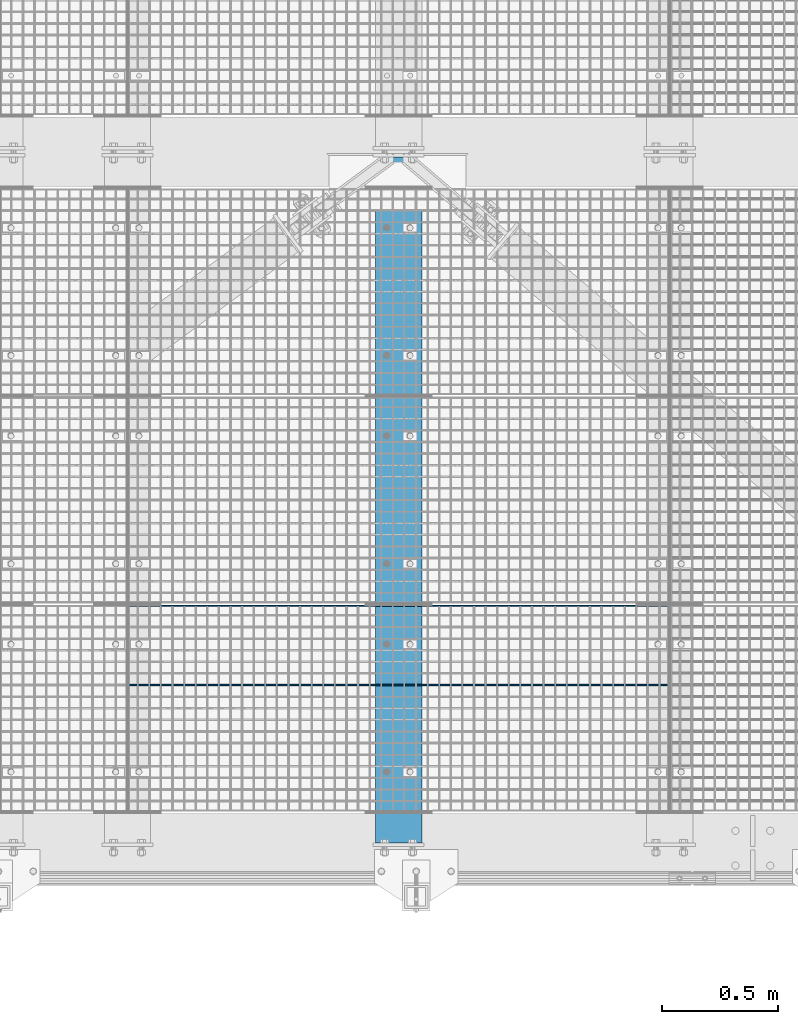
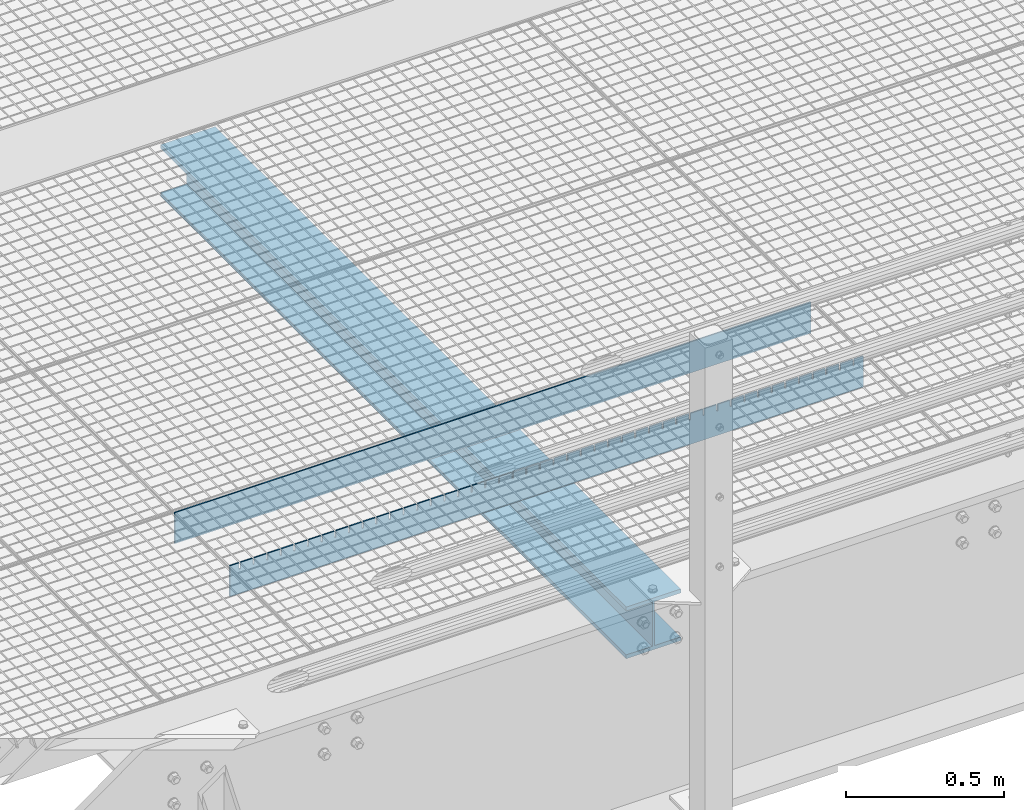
# One storey, part 199 of 1530: 3 beams.
"""IFC2X3 building model written with IfcOpenShell, lengths in millimetres."""

from ifc_helpers import new_model, si_unit, frame, origin_with_axes, place, context, subcontext, project, spatial, faceted_brep, material, type_object, element, save


model = new_model("IFC2X3")

# Units and contexts
model_context = context("Model", 3, precision=1e-05, world=origin_with_axes())
body_context = subcontext(model_context, "Body", "Model", "MODEL_VIEW")
ifc_project = project(units=[si_unit("LENGTHUNIT", "METRE", prefix="MILLI"), si_unit("AREAUNIT", "SQUARE_METRE"), si_unit("VOLUMEUNIT", "CUBIC_METRE"), si_unit("MASSUNIT", "GRAM", prefix="KILO"), si_unit("TIMEUNIT", "SECOND"), si_unit("PLANEANGLEUNIT", "RADIAN"), si_unit("SOLIDANGLEUNIT", "STERADIAN"), si_unit("THERMODYNAMICTEMPERATUREUNIT", "DEGREE_CELSIUS"), si_unit("LUMINOUSINTENSITYUNIT", "LUMEN")], contexts=[model_context])

# Site, building, storey
site_placement = place(None, origin_with_axes())
site = spatial("IfcSite", under=ifc_project, at=site_placement, Name="Brattvåg", CompositionType="ELEMENT")
building_placement = place(site_placement, origin_with_axes())
building = spatial("IfcBuilding", under=site, at=building_placement, Name="Undefined", CompositionType="ELEMENT")
storey_placement = place(building_placement, origin_with_axes())
storey = spatial("IfcBuildingStorey", under=building, at=storey_placement, Name="Undefined", CompositionType="ELEMENT", Elevation=0.0)

# Beams
ifc_material_1 = material(Name="STEEL/S355J2")
beam_type_1 = type_object("IfcBeamType", Name="120*5", PredefinedType="NOTDEFINED")
beam_1_placement = place(storey_placement, frame((5234.01317977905, 702.994873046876, -59.9998626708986), z_axis=(0.0, 0.0, 1.0), x_axis=(-1.0, 1.99999855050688e-09, 0.0)))
element("IfcBeam", 1, at=beam_1_placement, inside=storey, type_object=beam_type_1, material=ifc_material_1, Name="GRATING", context=body_context, shape_type="Brep", body=[
    faceted_brep([(2231.43418685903, -2.50000000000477, 60.000072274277), (2231.43418685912, -2.50000000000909, 35.0001373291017), (2231.43418685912, 2.50022888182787, 35.0001373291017), (2231.43418685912, 2.5, 60.0), (2236.43418685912, -2.50000000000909, 35.0001373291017), (2236.43418685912, 2.50022888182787, 35.0001373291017), (2236.43418685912, -2.50000000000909, 60.0001373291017), (2236.43418685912, 2.5, 60.0), (2186.48418685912, -2.50000000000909, 60.0001373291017), (2186.48418685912, 2.5, 60.0), (2186.48418685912, 2.50022888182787, 35.0001373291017), (2186.48418685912, -2.50000000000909, 35.0001373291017), (2181.48418685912, 2.50022888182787, 35.0001373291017), (2181.48418685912, -2.50000000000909, 35.0001373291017), (2181.48418685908, -2.50000000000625, 60.0000947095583), (2181.48418685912, 2.5, 60.0), (2136.53418685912, 2.5, 60.0), (2136.53418685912, -2.50000000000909, 60.0001373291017), (2136.53418685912, 2.50022888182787, 35.0001373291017), (2136.53418685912, -2.50000000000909, 35.0001373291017), (2131.53418685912, 2.50022888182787, 35.0001373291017), (2131.53418685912, -2.50000000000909, 35.0001373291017), (2131.5341868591, -2.50000000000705, 60.0001056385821), (2131.53418685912, 2.5, 60.0), (2086.58418685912, 2.5, 60.0), (2086.58418685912, -2.50000000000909, 60.0001373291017), (2086.58418685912, 2.50022888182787, 35.0001373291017), (2086.58418685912, -2.50000000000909, 35.0001373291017), (2081.58418685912, 2.50022888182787, 35.0001373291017), (2081.58418685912, -2.50000000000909, 35.0001373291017), (2081.58418685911, -2.50000000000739, 60.0001121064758), (2081.58418685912, 2.5, 60.0), (2036.63418685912, 2.5, 60.0), (2036.63418685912, -2.50000000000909, 60.0001373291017), (2036.63418685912, 2.50022888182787, 35.0001373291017), (2036.63418685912, -2.50000000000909, 35.0001373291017), (2031.63418685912, 2.50022888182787, 35.0001373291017), (2031.63418685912, -2.50000000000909, 35.0001373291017), (2031.63418685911, -2.50000000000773, 60.0001163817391), (2031.63418685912, 2.5, 60.0), (1986.68418685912, 2.5, 60.0), (1986.68418685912, -2.50000000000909, 60.0001373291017), (1986.68418685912, 2.50022888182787, 35.0001373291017), (1986.68418685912, -2.50000000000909, 35.0001373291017), (1981.68418685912, 2.50022888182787, 35.0001373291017), (1981.68418685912, -2.50000000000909, 35.0001373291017), (1981.68418685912, -2.50000000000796, 60.0001194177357), (1981.68418685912, 2.5, 60.0), (1936.73418685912, 2.5, 60.0), (1936.73418685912, -2.50000000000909, 60.0001373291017), (1936.73418685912, 2.50022888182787, 35.0001373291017), (1936.73418685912, -2.50000000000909, 35.0001373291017), (1931.73418685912, 2.50022888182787, 35.0001373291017), (1931.73418685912, -2.50000000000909, 35.0001373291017), (1931.73418685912, -2.50000000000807, 60.000121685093), (1931.73418685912, 2.5, 60.0), (1886.78418685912, 2.5, 60.0), (1886.78418685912, -2.50000000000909, 60.0001373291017), (1886.78418685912, 2.50022888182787, 35.0001373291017), (1886.78418685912, -2.50000000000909, 35.0001373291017), (1881.78418685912, 2.50022888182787, 35.0001373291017), (1881.78418685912, -2.50000000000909, 35.0001373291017), (1881.78418685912, -2.50000000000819, 60.0001234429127), (1881.78418685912, 2.5, 60.0), (1836.83418685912, 2.5, 60.0), (1836.83418685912, -2.50000000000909, 60.0001373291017), (1836.83418685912, 2.50022888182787, 35.0001373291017), (1836.83418685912, -2.50000000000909, 35.0001373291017), (1831.83418685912, 2.50022888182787, 35.0001373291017), (1831.83418685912, -2.50000000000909, 35.0001373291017), (1831.83418685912, -2.5000000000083, 60.0001248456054), (1831.83418685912, 2.5, 60.0), (1786.88418685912, 2.5, 60.0), (1786.88418685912, -2.50000000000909, 60.0001373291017), (1786.88418685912, 2.50022888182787, 35.0001373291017), (1786.88418685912, -2.50000000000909, 35.0001373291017), (1781.88418685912, 2.50022888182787, 35.0001373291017), (1781.88418685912, -2.50000000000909, 35.0001373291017), (1781.88418685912, -2.5000000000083, 60.0001259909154), (1781.88418685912, 2.5, 60.0), (1736.93418685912, 2.5, 60.0), (1736.93418685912, -2.50000000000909, 60.0001373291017), (1736.93418685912, 2.50022888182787, 35.0001373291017), (1736.93418685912, -2.50000000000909, 35.0001373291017), (1731.93418685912, 2.50022888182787, 35.0001373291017), (1731.93418685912, -2.50000000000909, 35.0001373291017), (1731.93418685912, -2.50000000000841, 60.0001269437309), (1731.93418685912, 2.5, 60.0), (1686.98418685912, 2.5, 60.0), (1686.98418685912, -2.50000000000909, 60.0001373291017), (1686.98418685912, 2.50022888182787, 35.0001373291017), (1686.98418685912, -2.50000000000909, 35.0001373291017), (1681.98418685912, 2.50022888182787, 35.0001373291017), (1681.98418685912, -2.50000000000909, 35.0001373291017), (1681.98418685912, -2.50000000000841, 60.0001277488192), (1681.98418685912, 2.5, 60.0), (1637.03418685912, 2.5, 60.0), (1637.03418685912, -2.50000000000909, 60.0001373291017), (1637.03418685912, 2.50022888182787, 35.0001373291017), (1637.03418685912, -2.50000000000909, 35.0001373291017), (1632.03418685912, 2.50022888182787, 35.0001373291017), (1632.03418685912, -2.50000000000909, 35.0001373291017), (1632.03418685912, -2.50000000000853, 60.0001284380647), (1632.03418685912, 2.5, 60.0), (1587.08418685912, 2.5, 60.0), (1587.08418685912, -2.50000000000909, 60.0001373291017), (1587.08418685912, 2.50022888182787, 35.0001373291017), (1587.08418685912, -2.50000000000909, 35.0001373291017), (1582.08418685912, 2.50022888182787, 35.0001373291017), (1582.08418685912, -2.50000000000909, 35.0001373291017), (1582.08418685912, -2.50000000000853, 60.000129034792), (1582.08418685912, 2.5, 60.0), (1537.13418685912, 2.5, 60.0), (1537.13418685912, -2.50000000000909, 60.0001373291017), (1537.13418685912, 2.50022888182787, 35.0001373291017), (1537.13418685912, -2.50000000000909, 35.0001373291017), (1532.13418685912, 2.50022888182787, 35.0001373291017), (1532.13418685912, -2.50000000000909, 35.0001373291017), (1532.13418685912, -2.50000000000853, 60.0001295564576), (1532.13418685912, 2.5, 60.0), (1487.18418685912, 2.5, 60.0), (1487.18418685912, -2.50000000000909, 60.0001373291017), (1487.18418685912, 2.50022888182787, 35.0001373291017), (1487.18418685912, -2.50000000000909, 35.0001373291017), (1482.18418685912, 2.50022888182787, 35.0001373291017), (1482.18418685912, -2.50000000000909, 35.0001373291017), (1482.18418685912, -2.50000000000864, 60.0001300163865), (1482.18418685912, 2.5, 60.0), (1437.23418685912, 2.5, 60.0), (1437.23418685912, -2.50000000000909, 60.0001373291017), (1437.23418685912, 2.50022888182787, 35.0001373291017), (1437.23418685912, -2.50000000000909, 35.0001373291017), (1432.23418685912, 2.50022888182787, 35.0001373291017), (1432.23418685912, -2.50000000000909, 35.0001373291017), (1432.23418685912, -2.50000000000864, 60.0001304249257), (1432.23418685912, 2.5, 60.0), (1387.28418685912, 2.5, 60.0), (1387.28418685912, -2.50000000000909, 60.0001373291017), (1387.28418685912, 2.50022888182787, 35.0001373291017), (1387.28418685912, -2.50000000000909, 35.0001373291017), (1382.28418685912, 2.50022888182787, 35.0001373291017), (1382.28418685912, -2.50000000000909, 35.0001373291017), (1382.28418685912, -2.50000000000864, 60.0001307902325), (1382.28418685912, 2.5, 60.0), (1337.33418685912, 2.5, 60.0), (1337.33418685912, -2.50000000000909, 60.0001373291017), (1337.33418685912, 2.50022888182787, 35.0001373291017), (1337.33418685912, -2.50000000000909, 35.0001373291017), (1332.33418685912, 2.50022888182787, 35.0001373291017), (1332.33418685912, -2.50000000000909, 35.0001373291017), (1332.33418685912, -2.50000000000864, 60.0001311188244), (1332.33418685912, 2.5, 60.0), (1287.38418685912, 2.5, 60.0), (1287.38418685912, -2.50000000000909, 60.0001373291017), (1287.38418685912, 2.50022888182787, 35.0001373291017), (1287.38418685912, -2.50000000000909, 35.0001373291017), (1282.38418685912, 2.50022888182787, 35.0001373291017), (1282.38418685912, -2.50000000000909, 35.0001373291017), (1282.38418685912, -2.50000000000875, 60.0001314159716), (1282.38418685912, 2.5, 60.0), (1237.43418685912, 2.5, 60.0), (1237.43418685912, -2.50000000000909, 60.0001373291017), (1237.43418685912, 2.50022888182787, 35.0001373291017), (1237.43418685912, -2.50000000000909, 35.0001373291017), (1232.43418685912, 2.50022888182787, 35.0001373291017), (1232.43418685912, -2.50000000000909, 35.0001373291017), (1232.43418685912, -2.50000000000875, 60.0001316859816), (1232.43418685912, 2.5, 60.0), (1187.48418685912, 2.5, 60.0), (1187.48418685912, -2.50000000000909, 60.0001373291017), (1187.48418685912, 2.50022888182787, 35.0001373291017), (1187.48418685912, -2.50000000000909, 35.0001373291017), (1182.48418685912, 2.50022888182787, 35.0001373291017), (1182.48418685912, -2.50000000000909, 35.0001373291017), (1182.48418685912, -2.50000000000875, 60.0001319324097), (1182.48418685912, 2.5, 60.0), (1137.53418685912, 2.5, 60.0), (1137.53418685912, -2.50000000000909, 60.0001373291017), (1137.53418685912, 2.50022888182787, 35.0001373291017), (1137.53418685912, -2.50000000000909, 35.0001373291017), (1132.53418685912, 2.50022888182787, 35.0001373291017), (1132.53418685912, -2.50000000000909, 35.0001373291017), (1132.53418685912, -2.50000000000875, 60.0001321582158), (1132.53418685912, 2.5, 60.0), (1087.58418685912, 2.5, 60.0), (1087.58418685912, -2.50000000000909, 60.0001373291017), (1087.58418685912, 2.50022888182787, 35.0001373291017), (1087.58418685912, -2.50000000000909, 35.0001373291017), (1082.58418685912, 2.50022888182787, 35.0001373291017), (1082.58418685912, -2.50000000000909, 35.0001373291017), (1082.58418685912, -2.50000000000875, 60.0001323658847), (1082.58418685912, 2.5, 60.0), (1037.63418685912, 2.5, 60.0), (1037.63418685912, -2.50000000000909, 60.0001373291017), (1037.63418685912, 2.50022888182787, 35.0001373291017), (1037.63418685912, -2.50000000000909, 35.0001373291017), (1032.63418685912, 2.50022888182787, 35.0001373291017), (1032.63418685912, -2.50000000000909, 35.0001373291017), (1032.63418685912, -2.50000000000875, 60.0001325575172), (1032.63418685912, 2.5, 60.0), (987.684186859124, 2.5, 60.0), (987.684186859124, -2.50000000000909, 60.0001373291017), (987.684186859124, 2.50022888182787, 35.0001373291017), (987.684186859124, -2.50000000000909, 35.0001373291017), (982.684186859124, 2.50022888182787, 35.0001373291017), (982.684186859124, -2.50000000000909, 35.0001373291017), (982.684186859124, -2.50000000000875, 60.0001327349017), (982.684186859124, 2.5, 60.0), (937.734186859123, 2.5, 60.0), (937.734186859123, -2.50000000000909, 60.0001373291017), (937.734186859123, 2.50022888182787, 35.0001373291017), (937.734186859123, -2.50000000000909, 35.0001373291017), (932.734186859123, 2.50022888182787, 35.0001373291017), (932.734186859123, -2.50000000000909, 35.0001373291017), (932.734186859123, -2.50000000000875, 60.0001328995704), (932.734186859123, 2.5, 60.0), (887.784186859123, 2.5, 60.0), (887.784186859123, -2.50000000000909, 60.0001373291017), (887.784186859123, 2.50022888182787, 35.0001373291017), (887.784186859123, -2.50000000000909, 35.0001373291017), (882.784186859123, 2.50022888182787, 35.0001373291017), (882.784186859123, -2.50000000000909, 35.0001373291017), (882.784186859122, -2.50000000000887, 60.0001330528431), (882.784186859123, 2.5, 60.0), (837.834186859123, 2.5, 60.0), (837.834186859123, -2.50000000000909, 60.0001373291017), (837.834186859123, 2.50022888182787, 35.0001373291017), (837.834186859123, -2.50000000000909, 35.0001373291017), (832.834186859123, 2.50022888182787, 35.0001373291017), (832.834186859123, -2.50000000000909, 35.0001373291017), (832.834186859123, -2.50000000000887, 60.0001331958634), (832.834186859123, 2.5, 60.0), (787.884186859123, 2.5, 60.0), (787.884186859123, -2.50000000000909, 60.0001373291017), (787.884186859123, 2.50022888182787, 35.0001373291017), (787.884186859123, -2.50000000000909, 35.0001373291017), (782.884186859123, 2.50022888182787, 35.0001373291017), (782.884186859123, -2.50000000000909, 35.0001373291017), (782.884186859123, -2.50000000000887, 60.0001333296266), (782.884186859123, 2.5, 60.0), (737.934186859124, 2.5, 60.0), (737.934186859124, -2.50000000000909, 60.0001373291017), (737.934186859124, 2.50022888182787, 35.0001373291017), (737.934186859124, -2.50000000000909, 35.0001373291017), (732.934186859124, 2.50022888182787, 35.0001373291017), (732.934186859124, -2.50000000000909, 35.0001373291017), (732.934186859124, -2.50000000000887, 60.0001334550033), (732.934186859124, 2.5, 60.0), (687.984186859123, 2.5, 60.0), (687.984186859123, -2.50000000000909, 60.0001373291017), (687.984186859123, 2.50022888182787, 35.0001373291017), (687.984186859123, -2.50000000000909, 35.0001373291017), (682.984186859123, 2.50022888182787, 35.0001373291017), (682.984186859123, -2.50000000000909, 35.0001373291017), (682.984186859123, -2.50000000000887, 60.0001335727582), (682.984186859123, 2.5, 60.0), (638.034186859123, 2.5, 60.0), (638.034186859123, -2.50000000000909, 60.0001373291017), (638.034186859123, 2.50022888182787, 35.0001373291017), (638.034186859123, -2.50000000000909, 35.0001373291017), (633.034186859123, 2.50022888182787, 35.0001373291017), (633.034186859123, -2.50000000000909, 35.0001373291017), (633.034186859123, -2.50000000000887, 60.0001336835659), (633.034186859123, 2.5, 60.0), (588.084186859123, 2.5, 60.0), (588.084186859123, -2.50000000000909, 60.0001373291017), (588.084186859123, 2.50022888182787, 35.0001373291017), (588.084186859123, -2.50000000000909, 35.0001373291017), (583.084186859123, 2.50022888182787, 35.0001373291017), (583.084186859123, -2.50000000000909, 35.0001373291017), (583.084186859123, -2.50000000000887, 60.0001337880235), (583.084186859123, 2.5, 60.0), (538.134186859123, 2.5, 60.0), (538.134186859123, -2.50000000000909, 60.0001373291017), (538.134186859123, 2.50022888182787, 35.0001373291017), (538.134186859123, -2.50000000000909, 35.0001373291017), (533.134186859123, 2.50022888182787, 35.0001373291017), (533.134186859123, -2.50000000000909, 35.0001373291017), (533.134186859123, -2.50000000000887, 60.0001338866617), (533.134186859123, 2.5, 60.0), (488.184186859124, 2.5, 60.0), (488.184186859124, -2.50000000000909, 60.0001373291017), (488.184186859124, 2.50022888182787, 35.0001373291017), (488.184186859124, -2.50000000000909, 35.0001373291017), (483.184186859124, 2.50022888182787, 35.0001373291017), (483.184186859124, -2.50000000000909, 35.0001373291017), (483.184186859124, -2.50000000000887, 60.0001339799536), (483.184186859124, 2.5, 60.0), (438.234186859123, 2.5, 60.0), (438.234186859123, -2.50000000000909, 60.0001373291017), (438.234186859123, 2.50022888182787, 35.0001373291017), (438.234186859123, -2.50000000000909, 35.0001373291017), (433.234186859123, 2.50022888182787, 35.0001373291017), (433.234186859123, -2.50000000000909, 35.0001373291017), (433.234186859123, -2.50000000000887, 60.0001340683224), (433.234186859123, 2.5, 60.0), (388.284186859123, 2.5, 60.0), (388.284186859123, -2.50000000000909, 60.0001373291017), (388.284186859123, 2.50022888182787, 35.0001373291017), (388.284186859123, -2.50000000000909, 35.0001373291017), (383.284186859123, 2.50022888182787, 35.0001373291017), (383.284186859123, -2.50000000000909, 35.0001373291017), (383.284186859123, -2.50000000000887, 60.0001341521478), (383.284186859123, 2.5, 60.0), (338.334186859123, 2.5, 60.0), (338.334186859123, -2.50000000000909, 60.0001373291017), (338.334186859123, 2.50022888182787, 35.0001373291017), (338.334186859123, -2.50000000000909, 35.0001373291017), (333.334186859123, 2.50022888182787, 35.0001373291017), (333.334186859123, -2.50000000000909, 35.0001373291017), (333.334186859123, -2.50000000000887, 60.0001342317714), (333.334186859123, 2.5, 60.0), (288.384186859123, 2.5, 60.0), (288.384186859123, -2.50000000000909, 60.0001373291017), (288.384186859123, 2.50022888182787, 35.0001373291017), (288.384186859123, -2.50000000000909, 35.0001373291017), (283.384186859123, 2.50022888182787, 35.0001373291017), (283.384186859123, -2.50000000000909, 35.0001373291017), (283.384186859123, -2.50000000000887, 60.0001343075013), (283.384186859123, 2.5, 60.0), (238.434186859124, 2.5, 60.0), (238.434186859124, -2.50000000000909, 60.0001373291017), (238.434186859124, 2.50022888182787, 35.0001373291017), (238.434186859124, -2.50000000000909, 35.0001373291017), (233.434186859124, 2.50022888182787, 35.0001373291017), (233.434186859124, -2.50000000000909, 35.0001373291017), (233.434186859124, -2.50000000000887, 60.0001343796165), (233.434186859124, 2.5, 60.0), (188.484186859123, 2.5, 60.0), (188.484186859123, -2.50000000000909, 60.0001373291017), (188.484186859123, 2.50022888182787, 35.0001373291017), (188.484186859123, -2.50000000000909, 35.0001373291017), (183.484186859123, 2.50022888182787, 35.0001373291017), (183.484186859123, -2.50000000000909, 35.0001373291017), (183.484186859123, -2.50000000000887, 60.0001344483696), (183.484186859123, 2.5, 60.0), (138.534186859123, 2.5, 60.0), (138.534186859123, -2.50000000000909, 60.0001373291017), (138.534186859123, 2.50022888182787, 35.0001373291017), (138.534186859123, -2.50000000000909, 35.0001373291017), (133.534186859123, 2.50022888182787, 35.0001373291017), (133.534186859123, -2.50000000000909, 35.0001373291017), (133.534186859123, -2.50000000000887, 60.0001345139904), (133.534186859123, 2.5, 60.0), (88.5841868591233, 2.5, 60.0), (88.5841868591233, -2.50000000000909, 60.0001373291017), (88.5841868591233, 2.50022888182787, 35.0001373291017), (88.5841868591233, -2.50000000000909, 35.0001373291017), (83.5841868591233, 2.50022888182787, 35.0001373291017), (83.5841868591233, -2.50000000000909, 35.0001373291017), (83.5841868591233, -2.50000000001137, 60.0001345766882), (83.5841868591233, 2.5, 60.0), (38.6341868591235, 2.5, 60.0), (38.6341868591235, -2.5000000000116, 60.0001373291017), (38.6341868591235, 2.49999999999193, 35.0001373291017), (38.6341868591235, -2.5000000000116, 35.0001373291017), (33.6341868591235, 2.49999999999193, 35.0001373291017), (33.6341868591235, -2.5000000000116, 35.0001373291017), (33.6341868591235, -2.5, 60.0), (33.6341868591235, 2.5, 60.0), (0.0, 2.5, 60.0), (0.0, -2.5, 60.0), (0.0, -2.5, -60.0), (0.0, 2.5, -60.0), (2319.99865722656, 2.5, -60.0), (2319.99865722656, -2.5, -60.0), (2319.99865722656, -2.5, 60.0), (2319.99865722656, 2.5, 60.0), (2286.37250839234, 2.5, 60.0), (2286.37250839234, -2.50000000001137, 60.0001373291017), (2286.37250839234, 2.49999999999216, 35.0001373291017), (2286.37250839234, -2.50000000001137, 35.0001373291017), (2281.37250839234, 2.49999999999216, 35.0001373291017), (2281.37250839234, -2.50000000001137, 35.0001373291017), (2281.37250839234, -2.5, 60.0), (2281.37250839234, 2.5, 60.0)], [[[0, 1, 2, 3]], [[4, 5, 2, 1]], [[6, 7, 5, 4]], [[8, 9, 10, 11]], [[11, 10, 12, 13]], [[14, 13, 12, 15]], [[16, 17, 14, 15]], [[17, 16, 18, 19]], [[19, 18, 20, 21]], [[22, 21, 20, 23]], [[24, 25, 22, 23]], [[25, 24, 26, 27]], [[27, 26, 28, 29]], [[30, 29, 28, 31]], [[32, 33, 30, 31]], [[33, 32, 34, 35]], [[35, 34, 36, 37]], [[38, 37, 36, 39]], [[40, 41, 38, 39]], [[41, 40, 42, 43]], [[43, 42, 44, 45]], [[46, 45, 44, 47]], [[48, 49, 46, 47]], [[49, 48, 50, 51]], [[51, 50, 52, 53]], [[54, 53, 52, 55]], [[56, 57, 54, 55]], [[57, 56, 58, 59]], [[59, 58, 60, 61]], [[62, 61, 60, 63]], [[64, 65, 62, 63]], [[65, 64, 66, 67]], [[67, 66, 68, 69]], [[70, 69, 68, 71]], [[72, 73, 70, 71]], [[73, 72, 74, 75]], [[75, 74, 76, 77]], [[78, 77, 76, 79]], [[80, 81, 78, 79]], [[81, 80, 82, 83]], [[83, 82, 84, 85]], [[86, 85, 84, 87]], [[88, 89, 86, 87]], [[89, 88, 90, 91]], [[91, 90, 92, 93]], [[94, 93, 92, 95]], [[96, 97, 94, 95]], [[97, 96, 98, 99]], [[99, 98, 100, 101]], [[102, 101, 100, 103]], [[104, 105, 102, 103]], [[105, 104, 106, 107]], [[107, 106, 108, 109]], [[110, 109, 108, 111]], [[112, 113, 110, 111]], [[113, 112, 114, 115]], [[115, 114, 116, 117]], [[118, 117, 116, 119]], [[120, 121, 118, 119]], [[121, 120, 122, 123]], [[123, 122, 124, 125]], [[126, 125, 124, 127]], [[128, 129, 126, 127]], [[129, 128, 130, 131]], [[131, 130, 132, 133]], [[134, 133, 132, 135]], [[136, 137, 134, 135]], [[137, 136, 138, 139]], [[139, 138, 140, 141]], [[142, 141, 140, 143]], [[144, 145, 142, 143]], [[145, 144, 146, 147]], [[147, 146, 148, 149]], [[150, 149, 148, 151]], [[152, 153, 150, 151]], [[153, 152, 154, 155]], [[155, 154, 156, 157]], [[158, 157, 156, 159]], [[160, 161, 158, 159]], [[161, 160, 162, 163]], [[163, 162, 164, 165]], [[166, 165, 164, 167]], [[168, 169, 166, 167]], [[169, 168, 170, 171]], [[171, 170, 172, 173]], [[174, 173, 172, 175]], [[176, 177, 174, 175]], [[177, 176, 178, 179]], [[179, 178, 180, 181]], [[182, 181, 180, 183]], [[184, 185, 182, 183]], [[185, 184, 186, 187]], [[187, 186, 188, 189]], [[190, 189, 188, 191]], [[192, 193, 190, 191]], [[193, 192, 194, 195]], [[195, 194, 196, 197]], [[198, 197, 196, 199]], [[200, 201, 198, 199]], [[201, 200, 202, 203]], [[203, 202, 204, 205]], [[206, 205, 204, 207]], [[208, 209, 206, 207]], [[209, 208, 210, 211]], [[211, 210, 212, 213]], [[214, 213, 212, 215]], [[216, 217, 214, 215]], [[217, 216, 218, 219]], [[219, 218, 220, 221]], [[222, 221, 220, 223]], [[224, 225, 222, 223]], [[225, 224, 226, 227]], [[227, 226, 228, 229]], [[230, 229, 228, 231]], [[232, 233, 230, 231]], [[233, 232, 234, 235]], [[235, 234, 236, 237]], [[238, 237, 236, 239]], [[240, 241, 238, 239]], [[241, 240, 242, 243]], [[243, 242, 244, 245]], [[246, 245, 244, 247]], [[248, 249, 246, 247]], [[249, 248, 250, 251]], [[251, 250, 252, 253]], [[254, 253, 252, 255]], [[256, 257, 254, 255]], [[257, 256, 258, 259]], [[259, 258, 260, 261]], [[262, 261, 260, 263]], [[264, 265, 262, 263]], [[265, 264, 266, 267]], [[267, 266, 268, 269]], [[270, 269, 268, 271]], [[272, 273, 270, 271]], [[273, 272, 274, 275]], [[275, 274, 276, 277]], [[278, 277, 276, 279]], [[280, 281, 278, 279]], [[281, 280, 282, 283]], [[283, 282, 284, 285]], [[286, 285, 284, 287]], [[288, 289, 286, 287]], [[289, 288, 290, 291]], [[291, 290, 292, 293]], [[294, 293, 292, 295]], [[296, 297, 294, 295]], [[297, 296, 298, 299]], [[299, 298, 300, 301]], [[302, 301, 300, 303]], [[304, 305, 302, 303]], [[305, 304, 306, 307]], [[307, 306, 308, 309]], [[310, 309, 308, 311]], [[312, 313, 310, 311]], [[313, 312, 314, 315]], [[315, 314, 316, 317]], [[318, 317, 316, 319]], [[320, 321, 318, 319]], [[321, 320, 322, 323]], [[323, 322, 324, 325]], [[326, 325, 324, 327]], [[328, 329, 326, 327]], [[329, 328, 330, 331]], [[331, 330, 332, 333]], [[334, 333, 332, 335]], [[336, 337, 334, 335]], [[337, 336, 338, 339]], [[339, 338, 340, 341]], [[342, 341, 340, 343]], [[344, 345, 342, 343]], [[345, 344, 346, 347]], [[347, 346, 348, 349]], [[350, 349, 348, 351]], [[352, 353, 350, 351]], [[353, 352, 354, 355]], [[355, 354, 356, 357]], [[358, 357, 356, 359]], [[360, 361, 358, 359]], [[362, 361, 360, 363]], [[362, 363, 364, 365]], [[366, 365, 364, 367]], [[366, 367, 368, 369]], [[369, 368, 370, 371]], [[371, 370, 372, 373]], [[374, 373, 372, 375]], [[1, 0, 8, 11, 13, 14, 17, 19, 21, 22, 25, 27, 29, 30, 33, 35, 37, 38, 41, 43, 45, 46, 49, 51, 53, 54, 57, 59, 61, 62, 65, 67, 69, 70, 73, 75, 77, 78, 81, 83, 85, 86, 89, 91, 93, 94, 97, 99, 101, 102, 105, 107, 109, 110, 113, 115, 117, 118, 121, 123, 125, 126, 129, 131, 133, 134, 137, 139, 141, 142, 145, 147, 149, 150, 153, 155, 157, 158, 161, 163, 165, 166, 169, 171, 173, 174, 177, 179, 181, 182, 185, 187, 189, 190, 193, 195, 197, 198, 201, 203, 205, 206, 209, 211, 213, 214, 217, 219, 221, 222, 225, 227, 229, 230, 233, 235, 237, 238, 241, 243, 245, 246, 249, 251, 253, 254, 257, 259, 261, 262, 265, 267, 269, 270, 273, 275, 277, 278, 281, 283, 285, 286, 289, 291, 293, 294, 297, 299, 301, 302, 305, 307, 309, 310, 313, 315, 317, 318, 321, 323, 325, 326, 329, 331, 333, 334, 337, 339, 341, 342, 345, 347, 349, 350, 353, 355, 357, 358, 361, 362, 365, 366, 369, 371, 373, 374, 6, 4]], [[9, 8, 0, 3]], [[375, 372, 370, 368, 367, 364, 363, 360, 359, 356, 354, 352, 351, 348, 346, 344, 343, 340, 338, 336, 335, 332, 330, 328, 327, 324, 322, 320, 319, 316, 314, 312, 311, 308, 306, 304, 303, 300, 298, 296, 295, 292, 290, 288, 287, 284, 282, 280, 279, 276, 274, 272, 271, 268, 266, 264, 263, 260, 258, 256, 255, 252, 250, 248, 247, 244, 242, 240, 239, 236, 234, 232, 231, 228, 226, 224, 223, 220, 218, 216, 215, 212, 210, 208, 207, 204, 202, 200, 199, 196, 194, 192, 191, 188, 186, 184, 183, 180, 178, 176, 175, 172, 170, 168, 167, 164, 162, 160, 159, 156, 154, 152, 151, 148, 146, 144, 143, 140, 138, 136, 135, 132, 130, 128, 127, 124, 122, 120, 119, 116, 114, 112, 111, 108, 106, 104, 103, 100, 98, 96, 95, 92, 90, 88, 87, 84, 82, 80, 79, 76, 74, 72, 71, 68, 66, 64, 63, 60, 58, 56, 55, 52, 50, 48, 47, 44, 42, 40, 39, 36, 34, 32, 31, 28, 26, 24, 23, 20, 18, 16, 15, 12, 10, 9, 3, 2, 5, 7]], [[374, 375, 7, 6]]]),
])
beam_2_placement = place(storey_placement, frame((5239.00899291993, 1044.49917602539, -59.9998626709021), z_axis=(0.0, 0.0, 1.0), x_axis=(-1.0, 1.99999855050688e-09, 0.0)))
element("IfcBeam", 2, at=beam_2_placement, inside=storey, type_object=beam_type_1, material=ifc_material_1, Name="GRATING", context=body_context, shape_type="Brep", body=[
    faceted_brep([(0.0, 2.5, -60.0), (0.0, 2.5, 60.0), (2329.99832153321, 2.5, 60.0), (2329.99832153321, 2.5, -60.0), (0.0, -2.5, 60.0), (2329.99832153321, -2.5, 60.0), (0.0, -2.5, -60.0), (2329.99832153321, -2.5, -60.0)], [[[0, 1, 2, 3]], [[1, 4, 5, 2]], [[4, 6, 7, 5]], [[6, 0, 3, 7]], [[5, 7, 3, 2]], [[6, 4, 1, 0]]]),
])
ifc_material_2 = material(Name="STEEL/S355J2+N")
beam_type_2 = type_object("IfcBeamType", Name="HEB200", PredefinedType="NOTDEFINED")
beam_3_placement = place(storey_placement, frame((4074.00112915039, 23.0015563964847, -219.998931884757), z_axis=(0.0, 0.0, 1.0), x_axis=(0.0, 1.0, 0.0)))
element("IfcBeam", 3, at=beam_3_placement, inside=storey, type_object=beam_type_2, material=ifc_material_2, Name="STÅLBJELKE", context=body_context, shape_type="Brep", body=[
    faceted_brep([(0.0, 100.0, -100.0), (0.0, 100.0, -85.0), (2953.99993896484, 100.0, -85.0), (2953.99993896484, 100.0, -100.0), (0.0, 4.5, -85.0), (2953.99993896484, 4.5, -85.0), (0.0, 4.5, 85.0), (2953.99993896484, 4.5, 85.0), (0.0, 100.0, 85.0), (2953.99993896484, 100.0, 85.0), (0.0, 100.0, 100.0), (2953.99993896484, 100.0, 100.0), (0.0, -100.0, 100.0), (2953.99993896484, -100.0, 100.0), (0.0, -100.0, 85.0), (2953.99993896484, -100.0, 85.0), (0.0, -4.5, 85.0), (2953.99993896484, -4.5, 85.0), (0.0, -4.5, -85.0), (2953.99993896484, -4.5, -85.0), (0.0, -100.0, -85.0), (2953.99993896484, -100.0, -85.0), (0.0, -100.0, -100.0), (2953.99993896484, -100.0, -100.0)], [[[0, 1, 2, 3]], [[1, 4, 5, 2]], [[4, 6, 7, 5]], [[6, 8, 9, 7]], [[8, 10, 11, 9]], [[10, 12, 13, 11]], [[12, 14, 15, 13]], [[14, 16, 17, 15]], [[16, 18, 19, 17]], [[18, 20, 21, 19]], [[20, 22, 23, 21]], [[22, 0, 3, 23]], [[5, 7, 9, 11, 13, 15, 17, 19, 21, 23, 3, 2]], [[22, 20, 18, 16, 14, 12, 10, 8, 6, 4, 1, 0]]]),
])

save(model, "model.ifc")
